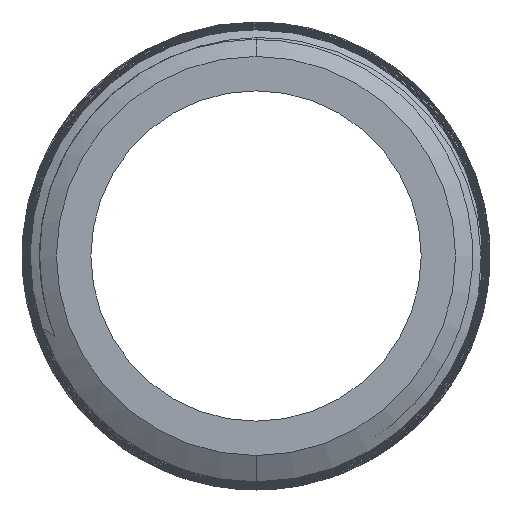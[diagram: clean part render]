
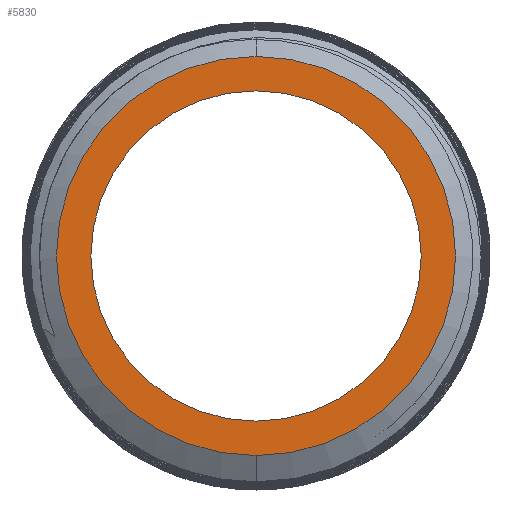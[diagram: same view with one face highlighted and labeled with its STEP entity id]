
A CAD part, left-side view. The second image highlights one B-rep face of the part: STEP entity #5830.
In plain terms, the highlighted planar face has unit normal (-1, 0, 0).
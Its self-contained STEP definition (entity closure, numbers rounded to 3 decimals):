
#115 = DIRECTION ( 'NONE',  ( 1., 0., 0. ) ) ;
#155 = CARTESIAN_POINT ( 'NONE',  ( -40., 0., 0. ) ) ;
#192 = DIRECTION ( 'NONE',  ( 0., 0., 1. ) ) ;
#332 = CARTESIAN_POINT ( 'NONE',  ( -40., 0., 0. ) ) ;
#707 = CIRCLE ( 'NONE', #4609, 4.35 ) ;
#709 = CARTESIAN_POINT ( 'NONE',  ( -40., 0., 0. ) ) ;
#799 = CARTESIAN_POINT ( 'NONE',  ( -40., 0., -4.35 ) ) ;
#920 = DIRECTION ( 'NONE',  ( -1., 0., 0. ) ) ;
#1232 = CARTESIAN_POINT ( 'NONE',  ( -40., 3.6, 0. ) ) ;
#1294 = ORIENTED_EDGE ( 'NONE', *, *, #2719, .T. ) ;
#1335 = DIRECTION ( 'NONE',  ( 0., 0., -1. ) ) ;
#1818 = CIRCLE ( 'NONE', #4164, 3.6 ) ;
#1920 = EDGE_CURVE ( 'NONE', #3769, #2023, #1818, .T. ) ;
#1969 = DIRECTION ( 'NONE',  ( 0., 0., 1. ) ) ;
#2023 = VERTEX_POINT ( 'NONE', #5469 ) ;
#2303 = ORIENTED_EDGE ( 'NONE', *, *, #5849, .T. ) ;
#2340 = PLANE ( 'NONE',  #5304 ) ;
#2429 = CARTESIAN_POINT ( 'NONE',  ( -40., 0., 4.35 ) ) ;
#2590 = EDGE_CURVE ( 'NONE', #2023, #3769, #3946, .T. ) ;
#2719 = EDGE_CURVE ( 'NONE', #4624, #4379, #707, .T. ) ;
#2847 = DIRECTION ( 'NONE',  ( -1., 0., 0. ) ) ;
#2870 = DIRECTION ( 'NONE',  ( -1., 0., 0. ) ) ;
#2956 = CIRCLE ( 'NONE', #6632, 4.35 ) ;
#3377 = AXIS2_PLACEMENT_3D ( 'NONE', #332, #920, #1969 ) ;
#3482 = ORIENTED_EDGE ( 'NONE', *, *, #2590, .F. ) ;
#3769 = VERTEX_POINT ( 'NONE', #5225 ) ;
#3946 = CIRCLE ( 'NONE', #3377, 3.6 ) ;
#4164 = AXIS2_PLACEMENT_3D ( 'NONE', #4465, #2847, #5571 ) ;
#4379 = VERTEX_POINT ( 'NONE', #2429 ) ;
#4451 = FACE_OUTER_BOUND ( 'NONE', #6180, .T. ) ;
#4465 = CARTESIAN_POINT ( 'NONE',  ( -40., 0., 0. ) ) ;
#4609 = AXIS2_PLACEMENT_3D ( 'NONE', #155, #6533, #192 ) ;
#4624 = VERTEX_POINT ( 'NONE', #799 ) ;
#4934 = DIRECTION ( 'NONE',  ( 0., 0., 1. ) ) ;
#5225 = CARTESIAN_POINT ( 'NONE',  ( -40., 0., -3.6 ) ) ;
#5304 = AXIS2_PLACEMENT_3D ( 'NONE', #1232, #115, #1335 ) ;
#5469 = CARTESIAN_POINT ( 'NONE',  ( -40., 0., 3.6 ) ) ;
#5571 = DIRECTION ( 'NONE',  ( 0., 0., 1. ) ) ;
#5830 = ADVANCED_FACE ( 'NONE', ( #6013, #4451 ), #2340, .F. ) ;
#5849 = EDGE_CURVE ( 'NONE', #4379, #4624, #2956, .T. ) ;
#5964 = ORIENTED_EDGE ( 'NONE', *, *, #1920, .F. ) ;
#6013 = FACE_BOUND ( 'NONE', #6633, .T. ) ;
#6180 = EDGE_LOOP ( 'NONE', ( #1294, #2303 ) ) ;
#6533 = DIRECTION ( 'NONE',  ( -1., 0., 0. ) ) ;
#6632 = AXIS2_PLACEMENT_3D ( 'NONE', #709, #2870, #4934 ) ;
#6633 = EDGE_LOOP ( 'NONE', ( #3482, #5964 ) ) ;
